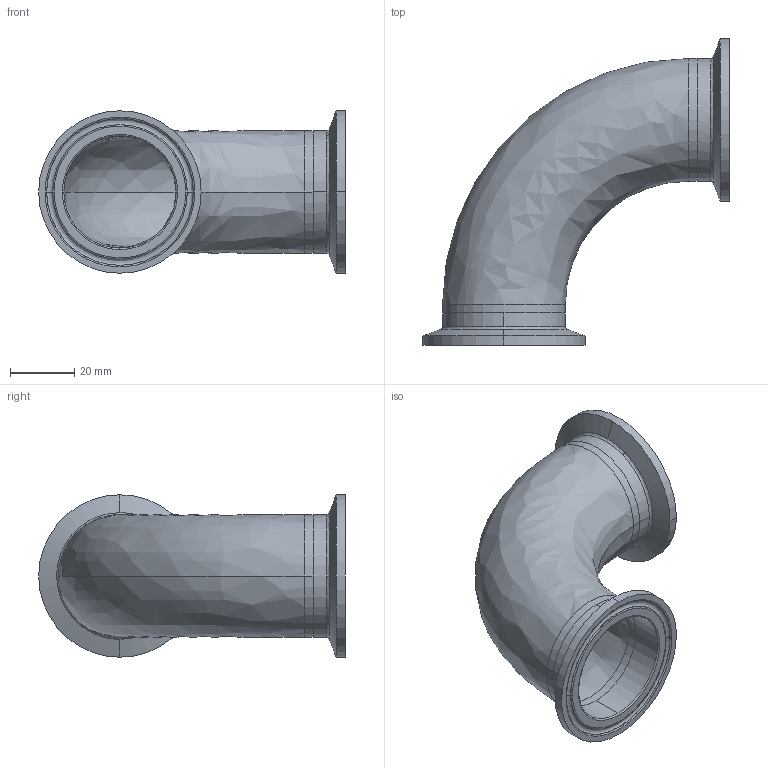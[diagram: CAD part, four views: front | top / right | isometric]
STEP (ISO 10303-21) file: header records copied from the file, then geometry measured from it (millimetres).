
FILE_DESCRIPTION (( 'STEP AP214' ), '1' );
FILE_NAME ('TEG2C6L1.5-...STEP', '2016-05-22T10:41:37', ( 'eran' ), ( '' ), 'SwSTEP 2.0', 'SolidWorks 2016', '' );
FILE_SCHEMA (( 'AUTOMOTIVE_DESIGN' ));
Length unit declared in the file: millimetre
Products named in the file (1): TEG2C6L1.5-..
Bounding box: 95.1 x 95.1 x 50.39 mm (x, y, z)
Volume: 28114.2 mm3; surface area: 30815.9 mm2
Topology: 3 solids, 3 shells, 64 faces, 158 edges, 102 vertices
Faces by surface type: bspline 24, cylinder 20, cone 12, plane 8
Entity records: 3306 total; most frequent: CARTESIAN_POINT 1733, DIRECTION 342, ORIENTED_EDGE 316, EDGE_CURVE 158, AXIS2_PLACEMENT_3D 155, CIRCLE 114, VERTEX_POINT 102, EDGE_LOOP 72
